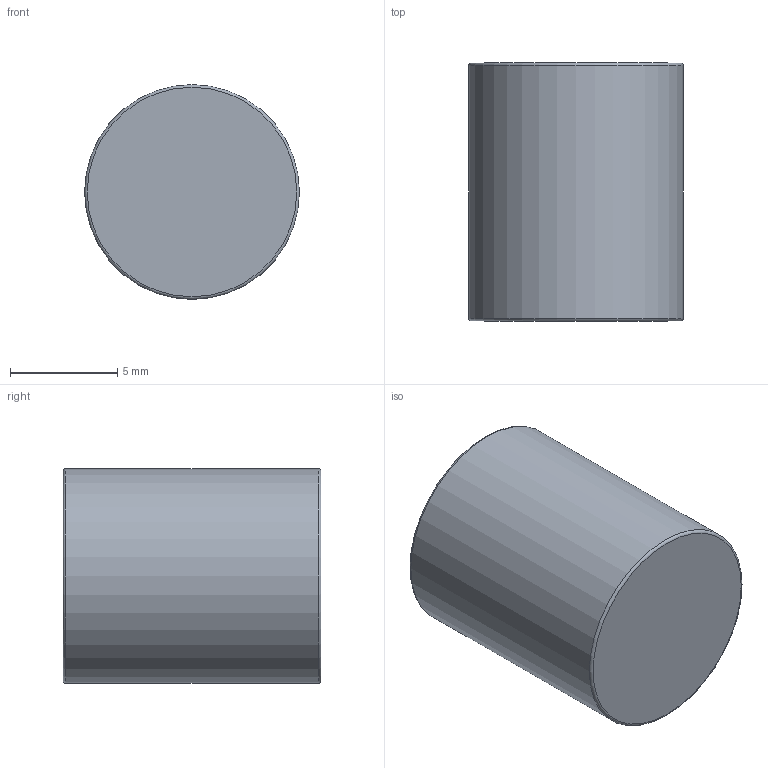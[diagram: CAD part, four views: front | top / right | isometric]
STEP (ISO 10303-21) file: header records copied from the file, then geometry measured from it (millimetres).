
FILE_DESCRIPTION(/* description */ (''),/* implementation_level */ '2;1');
FILE_NAME(/* name */ 'LM-1371-2410-A.stp',/* time_stamp */ '2015-01-30T10:58:38+00:00',/* author */ (''),/* organization */ (''),/* preprocessor_version */ 'ST-DEVELOPER v11',/* originating_system */ 'SIEMENS PLM Software NX 7.5',/* authorisation */ '');
FILE_SCHEMA (('AUTOMOTIVE_DESIGN { 1 0 10303 214 1 1 1 1 }'));
Length unit declared in the file: millimetre
Products named in the file (1): rt139FCFzd9w
Bounding box: 10 x 12 x 10 mm (x, y, z)
Volume: 942.3 mm3; surface area: 530.7 mm2
Topology: 1 solids, 1 shells, 5 faces, 8 edges, 5 vertices
Faces by surface type: plane 2, torus 2, cylinder 1
Full cylindrical faces by diameter (mm): 10 x1
Entity records: 154 total; most frequent: DIRECTION 20, CARTESIAN_POINT 14, AXIS2_PLACEMENT_3D 10, EDGE_LOOP 8, ORIENTED_EDGE 8, PRESENTATION_STYLE_ASSIGNMENT 6, SURFACE_STYLE_USAGE 6, SURFACE_SIDE_STYLE 6
